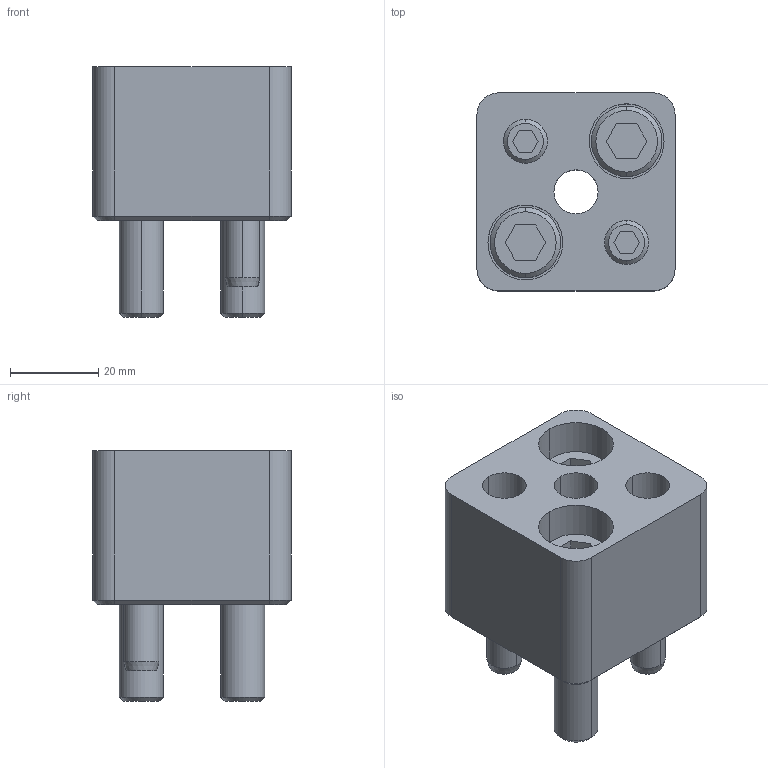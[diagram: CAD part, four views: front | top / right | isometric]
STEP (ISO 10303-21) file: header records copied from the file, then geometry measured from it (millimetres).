
FILE_DESCRIPTION(/* description */ (''),/* implementation_level */ '2;1');
FILE_NAME(/* name */ '3d_hasfr10_04027_r00.stp',/* time_stamp */ '2011-01-10T14:14:56+09:00',/* author */ ('MISUMI'),/* organization */ (''),/* preprocessor_version */ 'ST-DEVELOPER v11',/* originating_system */ 'UGS - NX 5.0',/* authorisation */ '');
FILE_SCHEMA (('CONFIG_CONTROL_DESIGN'));
Length unit declared in the file: millimetre
Products named in the file (1): 3d_hasfr10_04027_r00
Bounding box: 45 x 45 x 57 mm (x, y, z)
Volume: 64283.8 mm3; surface area: 22955.9 mm2
Topology: 7 solids, 7 shells, 147 faces, 326 edges, 207 vertices
Faces by surface type: plane 66, cylinder 51, cone 30
Entity records: 4196 total; most frequent: DIRECTION 744, CARTESIAN_POINT 740, ORIENTED_EDGE 652, EDGE_CURVE 326, AXIS2_PLACEMENT_3D 281, VERTEX_POINT 207, LINE 182, VECTOR 182
